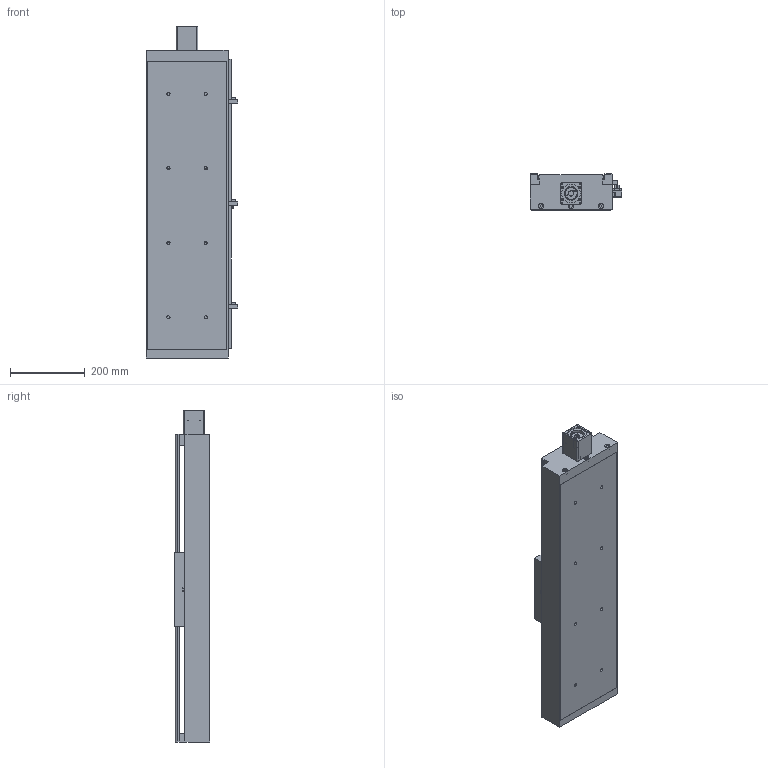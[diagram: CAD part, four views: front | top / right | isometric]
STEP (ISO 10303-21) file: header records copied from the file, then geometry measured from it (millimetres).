
FILE_DESCRIPTION((''),'2;1');
FILE_NAME('E:\libraries\UIA actuator library 2016\standard actuator\UIA220R20NDC\UIA220R20NDC ball screw 25\UIA220R20NDC-_ _ _-R25_ _ stp file, 01May16\UIA220R20NDC-550-R25_ _-M60-P13-C10-S.stp','2016-04-29T17:28:08',('h029'),(''),'Autodesk Inventor 11','Autodesk Inventor 11','');
FILE_SCHEMA(('AUTOMOTIVE_DESIGN { 1 0 10303 214 1 1 1 1 }'));
Length unit declared in the file: millimetre
Products named in the file (10): UIA220R20NDC-550-R25_ _; UIA220R20NDC-body; 41-100 0010 CARRIAGE; sensor rail; Sensor Switch; motor mount M60; SOH-32C; SOH-32C-3; SOH-32C-1; SOH-32C-2
Assembly tree (9 placements, depth 3):
  UIA220R20NDC-550-R25_ _
    UIA220R20NDC-body
    41-100 0010 CARRIAGE
    sensor rail
    Sensor Switch
    motor mount M60
    SOH-32C
      SOH-32C-3
      SOH-32C-1
      SOH-32C-2
Bounding box: 246.5 x 96 x 891 mm (x, y, z)
Volume: 5550121.4 mm3; surface area: 1262947.6 mm2
Topology: 8 solids, 8 shells, 511 faces, 1365 edges, 897 vertices
Faces by surface type: plane 342, bspline 121, cylinder 46, cone 2
Full cylindrical faces by diameter (mm): 3.242 x2, 4.5 x2, 7 x4, 7.5 x2, 13.8 x3, 14 x6, 17 x1, 32 x3, 37 x1, 50.3 x1, 50.5 x1
Entity records: 16706 total; most frequent: CARTESIAN_POINT 4729, ORIENTED_EDGE 2328, DIRECTION 2277, EDGE_CURVE 1164, VECTOR 849, LINE 849, VERTEX_POINT 823, EDGE_LOOP 741
